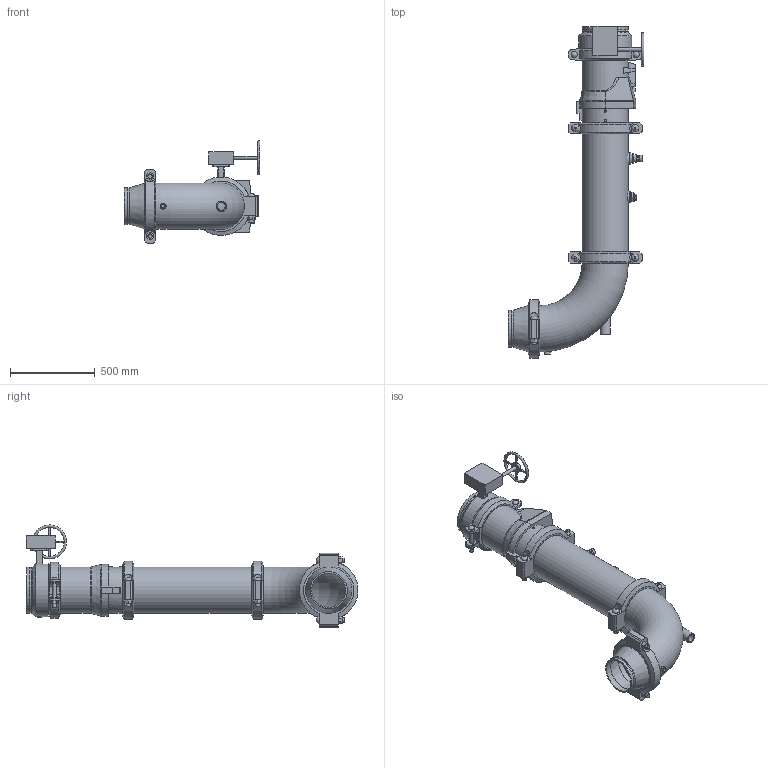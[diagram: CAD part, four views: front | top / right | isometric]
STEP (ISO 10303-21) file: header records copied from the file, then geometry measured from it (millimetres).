
FILE_DESCRIPTION(/* description */ ('VIC DVI PUMP DROP HORZ S/380G (OGSxOGS)','CAx-IF Rec.Pracs.---Representation and Presentation of Product Manufacturing Information (PMI)---4.0---2014-10-13'),/* implementation_level */ '2;1');
FILE_NAME(/* name */ 'C:\Users\kkamble\AppData\Roaming\Autodesk\ApplicationPlugins\Victaulic.Temp\A789\Victaulic_IPS_Horizontal DVI_CL 150_Series 380 (OGSxOGS)_924 (0.75)_10.0x08.0 (250x200).stp',/* time_stamp */ '2021-07-06T09:54:19+05:00',/* author */ ('Vjadhav'),/* organization */ ('Victaulic'),/* preprocessor_version */ 'ST-DEVELOPER v17.2',/* originating_system */ 'Autodesk Inventor 2019',/* authorisation */ '');
FILE_SCHEMA (('AP242_MANAGED_MODEL_BASED_3D_ENGINEERING_MIM_LF { 1 0 10303 442 1 1 4 }'));
Length unit declared in the file: inch
Products named in the file (10): 380_924 (0.75)-10.0x08.0; Pipe-10.0x08.0; 107N-10.0; 924-10.0x0.75; 923-10.0x0.75; 779-10.0; 761-10.0; 077-10.0; 100G-10.0; 050-10.0x08.0
Assembly tree (11 placements, depth 2):
  380_924 (0.75)-10.0x08.0
    Pipe-10.0x08.0
    107N-10.0
    924-10.0x0.75
    923-10.0x0.75
    779-10.0
    761-10.0
    077-10.0  x3
    100G-10.0
    050-10.0x08.0
Bounding box: 801.18 x 1959.6 x 603.11 mm (x, y, z)
Volume: 35295004.3 mm3; surface area: 5204030.4 mm2
Topology: 11 solids, 18 shells, 617 faces, 1545 edges, 1045 vertices
Faces by surface type: plane 349, cylinder 208, bspline 24, cone 24, torus 10, sphere 2
Full cylindrical faces by diameter (mm): 10.922 x4, 12.7 x1, 13.716 x4, 20.066 x1, 20.93 x1, 21.336 x1, 22.225 x4, 22.86 x1, 25.4 x12, 26.67 x4, 27.432 x6, 34.29 x1, 37.694 x2, 38.608 x1, 45.974 x4, 48.26 x1, 55.626 x2, 60.96 x1, 63.079 x1, 70.104 x1, 76.2 x1, 202.717 x1, 214.401 x1, 219.075 x2, 254.508 x6, 260.35 x1, 264.16 x3, 268.275 x9, 273.05 x23, 311.15 x1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
Entity records: 17357 total; most frequent: CARTESIAN_POINT 4049, DIRECTION 2710, ORIENTED_EDGE 2510, EDGE_CURVE 1255, AXIS2_PLACEMENT_3D 1036, VERTEX_POINT 849, LINE 638, VECTOR 638
